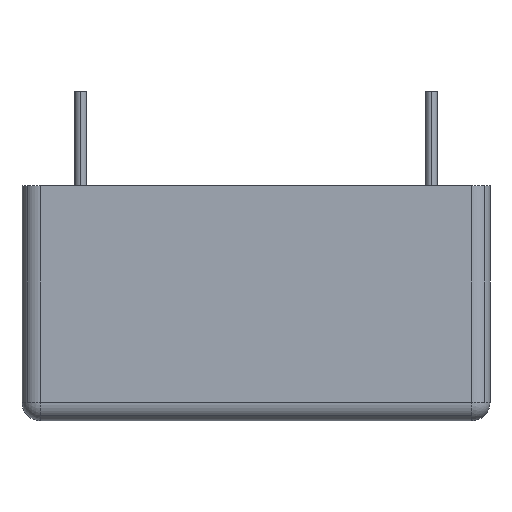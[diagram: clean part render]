
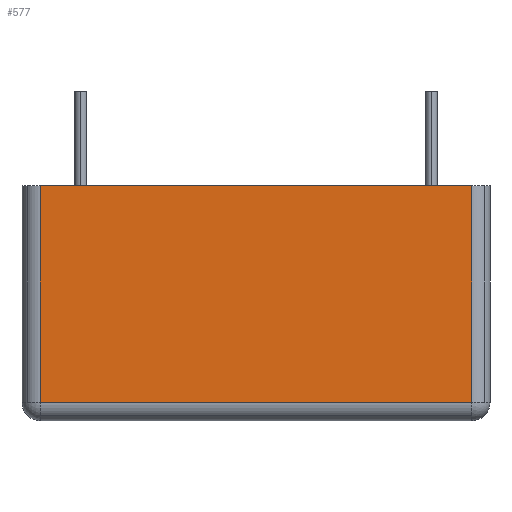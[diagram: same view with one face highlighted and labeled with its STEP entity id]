
A CAD part, left-side view. The second image highlights one B-rep face of the part: STEP entity #577.
In plain terms, the highlighted planar face has unit normal (-1, 0, 0).
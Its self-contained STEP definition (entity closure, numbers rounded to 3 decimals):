
#13 = DIRECTION ( 'NONE',  ( 0., 1., 0. ) ) ;
#33 = ORIENTED_EDGE ( 'NONE', *, *, #585, .F. ) ;
#38 = AXIS2_PLACEMENT_3D ( 'NONE', #1159, #535, #13 ) ;
#73 = DIRECTION ( 'NONE',  ( 0., 1., 0. ) ) ;
#90 = VERTEX_POINT ( 'NONE', #1100 ) ;
#145 = ORIENTED_EDGE ( 'NONE', *, *, #1097, .F. ) ;
#163 = LINE ( 'NONE', #384, #568 ) ;
#304 = VECTOR ( 'NONE', #73, 1000. ) ;
#320 = EDGE_CURVE ( 'NONE', #916, #90, #1221, .T. ) ;
#340 = LINE ( 'NONE', #461, #1037 ) ;
#352 = PLANE ( 'NONE',  #38 ) ;
#384 = CARTESIAN_POINT ( 'NONE',  ( -15.9, 9.35, 0. ) ) ;
#461 = CARTESIAN_POINT ( 'NONE',  ( -15.9, -9.35, 0. ) ) ;
#487 = ORIENTED_EDGE ( 'NONE', *, *, #666, .F. ) ;
#535 = DIRECTION ( 'NONE',  ( -1., 0., 0. ) ) ;
#547 = CARTESIAN_POINT ( 'NONE',  ( -15.9, 9.35, 0.8 ) ) ;
#552 = FACE_OUTER_BOUND ( 'NONE', #720, .T. ) ;
#568 = VECTOR ( 'NONE', #1001, 1000. ) ;
#577 = ADVANCED_FACE ( 'NONE', ( #552 ), #352, .T. ) ;
#583 = CARTESIAN_POINT ( 'NONE',  ( -15.9, 10.15, 10.2 ) ) ;
#585 = EDGE_CURVE ( 'NONE', #728, #1044, #862, .T. ) ;
#618 = CARTESIAN_POINT ( 'NONE',  ( -15.9, -9.35, 10.2 ) ) ;
#647 = CARTESIAN_POINT ( 'NONE',  ( -15.9, -5.075, 0.8 ) ) ;
#666 = EDGE_CURVE ( 'NONE', #916, #728, #340, .T. ) ;
#720 = EDGE_LOOP ( 'NONE', ( #487, #1025, #145, #33 ) ) ;
#728 = VERTEX_POINT ( 'NONE', #1199 ) ;
#862 = LINE ( 'NONE', #647, #1301 ) ;
#916 = VERTEX_POINT ( 'NONE', #618 ) ;
#955 = DIRECTION ( 'NONE',  ( 0., 1., 0. ) ) ;
#1001 = DIRECTION ( 'NONE',  ( 0., 0., 1. ) ) ;
#1025 = ORIENTED_EDGE ( 'NONE', *, *, #320, .T. ) ;
#1037 = VECTOR ( 'NONE', #1246, 1000. ) ;
#1044 = VERTEX_POINT ( 'NONE', #547 ) ;
#1097 = EDGE_CURVE ( 'NONE', #1044, #90, #163, .T. ) ;
#1100 = CARTESIAN_POINT ( 'NONE',  ( -15.9, 9.35, 10.2 ) ) ;
#1159 = CARTESIAN_POINT ( 'NONE',  ( -15.9, -10.15, 0. ) ) ;
#1199 = CARTESIAN_POINT ( 'NONE',  ( -15.9, -9.35, 0.8 ) ) ;
#1221 = LINE ( 'NONE', #583, #304 ) ;
#1246 = DIRECTION ( 'NONE',  ( 0., 0., -1. ) ) ;
#1301 = VECTOR ( 'NONE', #955, 1000. ) ;
